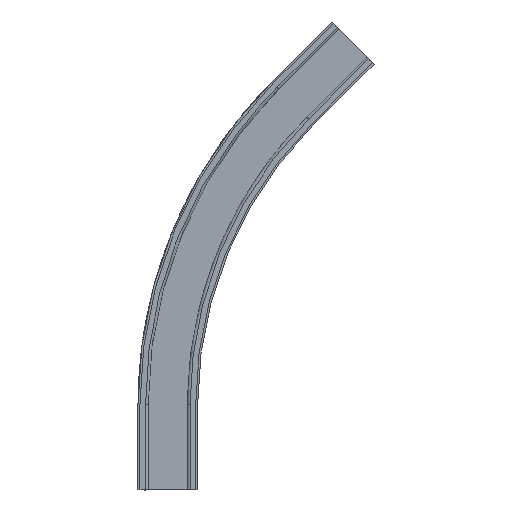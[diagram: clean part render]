
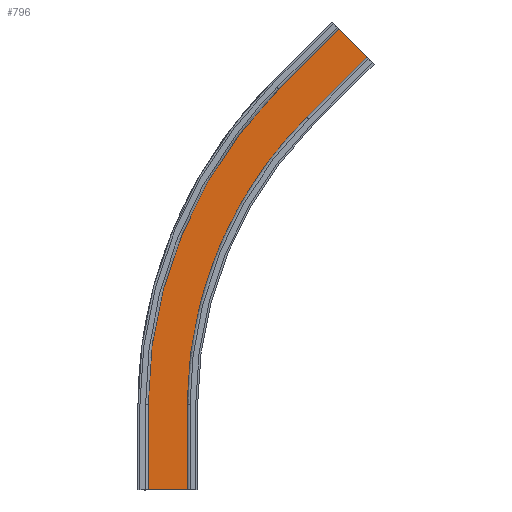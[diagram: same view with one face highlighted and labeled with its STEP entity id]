
A CAD part, front view. The second image highlights one B-rep face of the part: STEP entity #796.
In plain terms, the highlighted planar face has unit normal (0, -1, 0).
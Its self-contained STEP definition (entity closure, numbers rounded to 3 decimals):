
#25 = EDGE_CURVE ( 'NONE', #1129, #1126, #2777, .T. ) ;
#34 = EDGE_CURVE ( 'NONE', #1126, #971, #844, .T. ) ;
#36 = EDGE_CURVE ( 'NONE', #971, #1234, #2762, .T. ) ;
#41 = EDGE_CURVE ( 'NONE', #1257, #1298, #835, .T. ) ;
#44 = EDGE_CURVE ( 'NONE', #1298, #1351, #2749, .T. ) ;
#46 = EDGE_CURVE ( 'NONE', #1350, #1257, #2746, .T. ) ;
#47 = EDGE_CURVE ( 'NONE', #1234, #1350, #2742, .T. ) ;
#48 = EDGE_CURVE ( 'NONE', #1351, #1129, #2740, .T. ) ;
#555 = CARTESIAN_POINT ( 'NONE',  ( -249.092, 246.202, 600.451 ) ) ;
#572 = CARTESIAN_POINT ( 'NONE',  ( -278.083, 246.202, 488.021 ) ) ;
#614 = CARTESIAN_POINT ( 'NONE',  ( -415.889, 246.202, 155.327 ) ) ;
#693 = CARTESIAN_POINT ( 'NONE',  ( -207.372, 246.202, 558.732 ) ) ;
#694 = CARTESIAN_POINT ( 'NONE',  ( -415.889, 246.202, 55.327 ) ) ;
#796 = ADVANCED_FACE ( 'NONE', ( #2533 ), #4687, .F. ) ;
#835 =( BOUNDED_CURVE ( )  B_SPLINE_CURVE ( 3, ( #1025, #1024, #1023, #1021 ),
 .UNSPECIFIED., .F., .F. ) 
 B_SPLINE_CURVE_WITH_KNOTS ( ( 4, 4 ),
 ( 0., 1. ),
 .UNSPECIFIED. ) 
 CURVE ( )  GEOMETRIC_REPRESENTATION_ITEM ( )  RATIONAL_B_SPLINE_CURVE ( ( 1., 0.949, 0.949, 1. ) ) 
 REPRESENTATION_ITEM ( '' )  );
#844 =( BOUNDED_CURVE ( )  B_SPLINE_CURVE ( 3, ( #1054, #1052, #1051, #1050 ),
 .UNSPECIFIED., .F., .F. ) 
 B_SPLINE_CURVE_WITH_KNOTS ( ( 4, 4 ),
 ( 0., 1. ),
 .UNSPECIFIED. ) 
 CURVE ( )  GEOMETRIC_REPRESENTATION_ITEM ( )  RATIONAL_B_SPLINE_CURVE ( ( 1., 0.949, 0.949, 1. ) ) 
 REPRESENTATION_ITEM ( '' )  );
#971 = VERTEX_POINT ( 'NONE', #4259 ) ;
#999 = DIRECTION ( 'NONE',  ( -1., 0., 0. ) ) ;
#1000 = CARTESIAN_POINT ( 'NONE',  ( -474.889, 246.202, 55.327 ) ) ;
#1001 = DIRECTION ( 'NONE',  ( 0.707, 0., -0.707 ) ) ;
#1002 = CARTESIAN_POINT ( 'NONE',  ( -249.092, 246.202, 600.451 ) ) ;
#1004 = DIRECTION ( 'NONE',  ( -0.707, 0., -0.707 ) ) ;
#1005 = CARTESIAN_POINT ( 'NONE',  ( -207.372, 246.202, 558.732 ) ) ;
#1010 = DIRECTION ( 'NONE',  ( 0., 0., -1. ) ) ;
#1011 = CARTESIAN_POINT ( 'NONE',  ( -415.889, 246.202, 155.327 ) ) ;
#1021 = CARTESIAN_POINT ( 'NONE',  ( -415.889, 246.202, 155.327 ) ) ;
#1023 = CARTESIAN_POINT ( 'NONE',  ( -415.889, 246.202, 281.779 ) ) ;
#1024 = CARTESIAN_POINT ( 'NONE',  ( -367.498, 246.202, 398.606 ) ) ;
#1025 = CARTESIAN_POINT ( 'NONE',  ( -278.083, 246.202, 488.021 ) ) ;
#1042 = DIRECTION ( 'NONE',  ( 0.707, 0., 0.707 ) ) ;
#1043 = CARTESIAN_POINT ( 'NONE',  ( -319.802, 246.202, 529.74 ) ) ;
#1050 = CARTESIAN_POINT ( 'NONE',  ( -319.802, 246.202, 529.74 ) ) ;
#1051 = CARTESIAN_POINT ( 'NONE',  ( -420.43, 246.202, 429.113 ) ) ;
#1052 = CARTESIAN_POINT ( 'NONE',  ( -474.889, 246.202, 297.636 ) ) ;
#1054 = CARTESIAN_POINT ( 'NONE',  ( -474.889, 246.202, 155.327 ) ) ;
#1079 = DIRECTION ( 'NONE',  ( 0., 0., 1. ) ) ;
#1080 = CARTESIAN_POINT ( 'NONE',  ( -474.889, 246.202, 155.327 ) ) ;
#1126 = VERTEX_POINT ( 'NONE', #4215 ) ;
#1129 = VERTEX_POINT ( 'NONE', #4214 ) ;
#1234 = VERTEX_POINT ( 'NONE', #555 ) ;
#1257 = VERTEX_POINT ( 'NONE', #572 ) ;
#1298 = VERTEX_POINT ( 'NONE', #614 ) ;
#1350 = VERTEX_POINT ( 'NONE', #693 ) ;
#1351 = VERTEX_POINT ( 'NONE', #694 ) ;
#2533 = FACE_OUTER_BOUND ( 'NONE', #5032, .T. ) ;
#2739 = VECTOR ( 'NONE', #999, 1000. ) ;
#2740 = LINE ( 'NONE', #1000, #2739 ) ;
#2741 = VECTOR ( 'NONE', #1001, 1000. ) ;
#2742 = LINE ( 'NONE', #1002, #2741 ) ;
#2744 = VECTOR ( 'NONE', #1004, 1000. ) ;
#2746 = LINE ( 'NONE', #1005, #2744 ) ;
#2748 = VECTOR ( 'NONE', #1010, 1000. ) ;
#2749 = LINE ( 'NONE', #1011, #2748 ) ;
#2760 = VECTOR ( 'NONE', #1042, 1000. ) ;
#2762 = LINE ( 'NONE', #1043, #2760 ) ;
#2776 = VECTOR ( 'NONE', #1079, 1000. ) ;
#2777 = LINE ( 'NONE', #1080, #2776 ) ;
#3058 = ORIENTED_EDGE ( 'NONE', *, *, #48, .F. ) ;
#3059 = ORIENTED_EDGE ( 'NONE', *, *, #25, .F. ) ;
#3060 = ORIENTED_EDGE ( 'NONE', *, *, #34, .F. ) ;
#3061 = ORIENTED_EDGE ( 'NONE', *, *, #36, .F. ) ;
#3062 = ORIENTED_EDGE ( 'NONE', *, *, #47, .F. ) ;
#3063 = ORIENTED_EDGE ( 'NONE', *, *, #46, .F. ) ;
#3064 = ORIENTED_EDGE ( 'NONE', *, *, #41, .F. ) ;
#3065 = ORIENTED_EDGE ( 'NONE', *, *, #44, .F. ) ;
#4214 = CARTESIAN_POINT ( 'NONE',  ( -474.889, 246.202, 55.327 ) ) ;
#4215 = CARTESIAN_POINT ( 'NONE',  ( -474.889, 246.202, 155.327 ) ) ;
#4259 = CARTESIAN_POINT ( 'NONE',  ( -319.802, 246.202, 529.74 ) ) ;
#4605 = CARTESIAN_POINT ( 'NONE',  ( -474.889, 246.202, 155.327 ) ) ;
#4651 = DIRECTION ( 'NONE',  ( -1., 0., 0. ) ) ;
#4687 = PLANE ( 'NONE',  #7383 ) ;
#4867 = DIRECTION ( 'NONE',  ( 0., 1., 0. ) ) ;
#5032 = EDGE_LOOP ( 'NONE', ( #3065, #3064, #3063, #3062, #3061, #3060, #3059, #3058 ) ) ;
#7383 = AXIS2_PLACEMENT_3D ( 'NONE', #4605, #4867, #4651 ) ;
